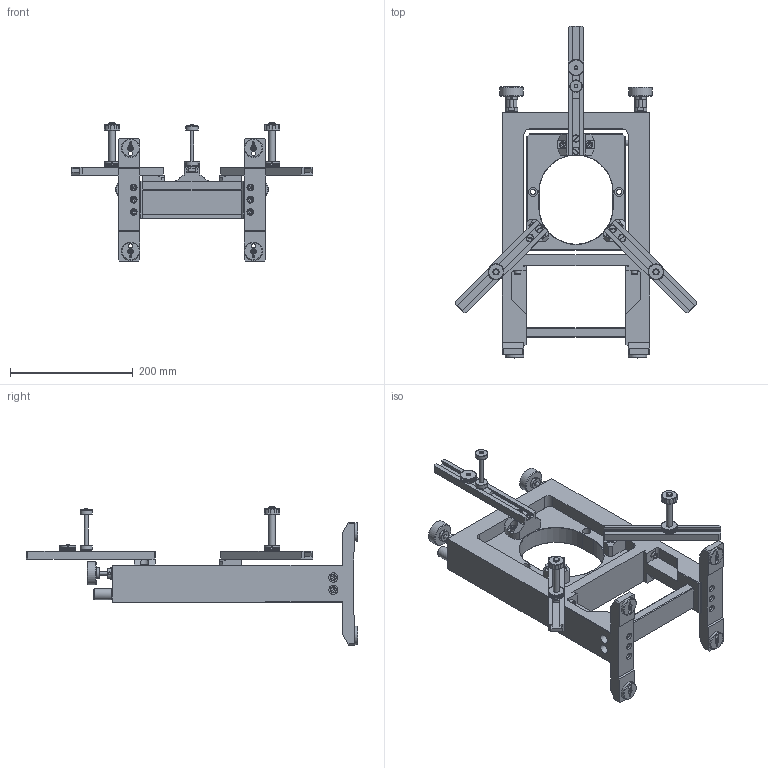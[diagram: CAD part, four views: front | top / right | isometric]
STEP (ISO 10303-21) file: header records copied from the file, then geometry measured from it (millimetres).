
FILE_DESCRIPTION(/* description */ (''),/* implementation_level */ '2;1');
FILE_NAME(/* name */ 'U:\KONSTRUKTORIAI\DOKUMENTACIJA\5\5AM-500\STEP\5AM-500_SB.stp',/* time_stamp */ '2022-02-09T06:25:42+02:00',/* author */ ('dsgn31'),/* organization */ (''),/* preprocessor_version */ 'ST-DEVELOPER v15.2',/* originating_system */ 'Autodesk Inventor 2014',/* authorisation */ '');
FILE_SCHEMA (('CONFIG_CONTROL_DESIGN'));
Products named in the file (1): 5AM-500 SB_Shrinkwrap_1
Bounding box: 392.94 x 540 x 225 mm (x, y, z)
Volume: 3106707.5 mm3; surface area: 462062.2 mm2
Topology: 1 solids, 43 shells, 2470 faces, 5324 edges, 3014 vertices
Faces by surface type: plane 1802, cylinder 296, cone 196, bspline 144, torus 32
Full cylindrical faces by diameter (mm): 1.5 x4, 2.459 x3, 2.5 x2, 2.6 x4, 3 x8, 3.242 x10, 4 x4, 4.134 x6, 4.3 x20, 4.917 x16, 6 x31, 6.2 x1, 6.4 x12, 6.5 x14, 7 x4, 8.5 x2, 9 x6, 10 x22, 11 x14, 12 x8, 14 x2, 15 x4, 18 x5, 20 x4, 24 x2, 30 x6, 38 x2
Entity records: 64167 total; most frequent: CARTESIAN_POINT 13572, DIRECTION 10438, ORIENTED_EDGE 9428, EDGE_CURVE 4714, AXIS2_PLACEMENT_3D 3939, EDGE_LOOP 3035, VERTEX_POINT 2803, LINE 2560
